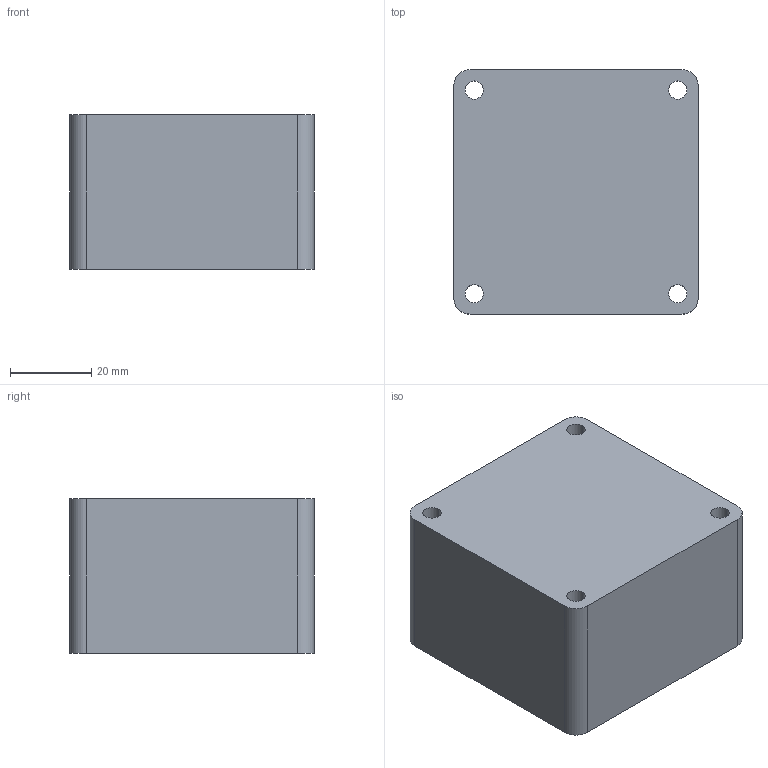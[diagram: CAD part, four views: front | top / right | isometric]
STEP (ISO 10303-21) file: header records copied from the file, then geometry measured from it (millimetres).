
FILE_DESCRIPTION (( 'STEP AP203' ), '1' );
FILE_NAME ('Type_B_Fan_Reference_Model.STEP', '2026-07-30T18:02:31', ( '' ), ( '' ), 'SwSTEP 2.0', 'SolidWorks 2024', '' );
FILE_SCHEMA (( 'CONFIG_CONTROL_DESIGN' ));
Length unit declared in the file: inch
Products named in the file (1): Type_B_Fan_Reference_Model
Bounding box: 60 x 60 x 38 mm (x, y, z)
Volume: 133860.6 mm3; surface area: 18053.2 mm2
Topology: 1 solids, 1 shells, 18 faces, 48 edges, 32 vertices
Faces by surface type: cylinder 12, plane 6
Entity records: 671 total; most frequent: DIRECTION 110, CARTESIAN_POINT 99, ORIENTED_EDGE 96, EDGE_CURVE 48, AXIS2_PLACEMENT_3D 43, VERTEX_POINT 32, EDGE_LOOP 26, CIRCLE 24
